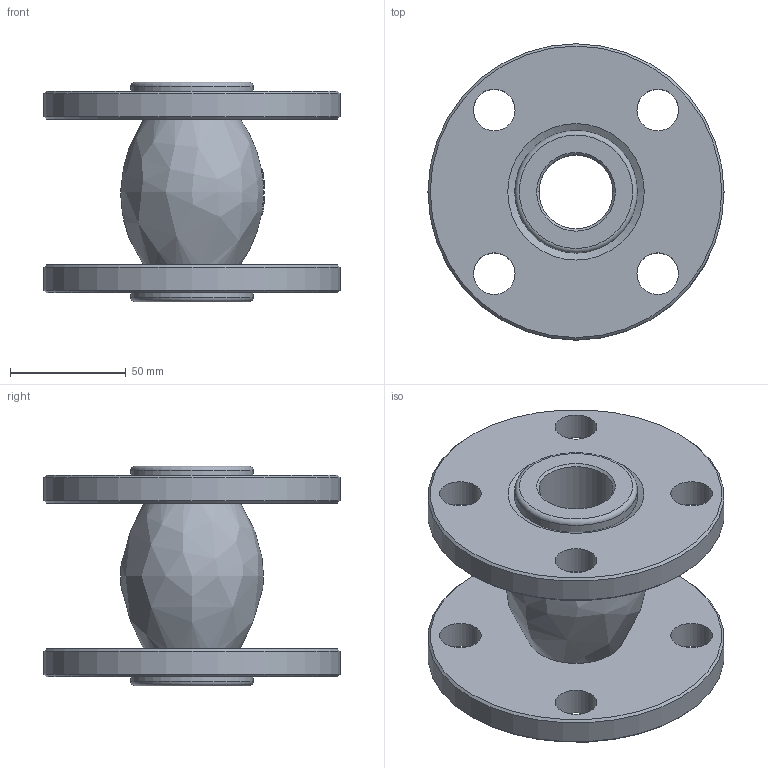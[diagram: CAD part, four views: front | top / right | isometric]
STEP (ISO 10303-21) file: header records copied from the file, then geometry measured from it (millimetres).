
FILE_DESCRIPTION(/* description */ ('D140-02171','CAx-IF Rec.Pracs.---Representation and Presentation of Product Manufacturing Information (PMI)---4.0---2014-10-13'),/* implementation_level */ '2;1');
FILE_NAME(/* name */ '',/* time_stamp */ '2026-04-30T11:15:26+03:00',/* author */ ('DN.RU'),/* organization */ ('DN.RU'),/* preprocessor_version */ 'ST-DEVELOPER v20',/* originating_system */ 'Autodesk Inventor 2025',/* authorisation */ '');
FILE_SCHEMA (('AP242_MANAGED_MODEL_BASED_3D_ENGINEERING_MIM_LF { 1 0 10303 442 1 1 4 }'));
Length unit declared in the file: millimetre
Products named in the file (1): CR-E25-F
Bounding box: 128 x 128 x 95 mm (x, y, z)
Volume: 377159.4 mm3; surface area: 80096.5 mm2
Topology: 1 solids, 1 shells, 100 faces, 267 edges, 176 vertices
Faces by surface type: plane 43, bspline 35, cylinder 13, cone 7, torus 2
Full cylindrical faces by diameter (mm): 18 x8, 32 x1, 53 x2, 128 x2
Entity records: 4219 total; most frequent: CARTESIAN_POINT 1580, ORIENTED_EDGE 534, DIRECTION 480, EDGE_CURVE 267, AXIS2_PLACEMENT_3D 200, VERTEX_POINT 176, EDGE_LOOP 125, CIRCLE 120
